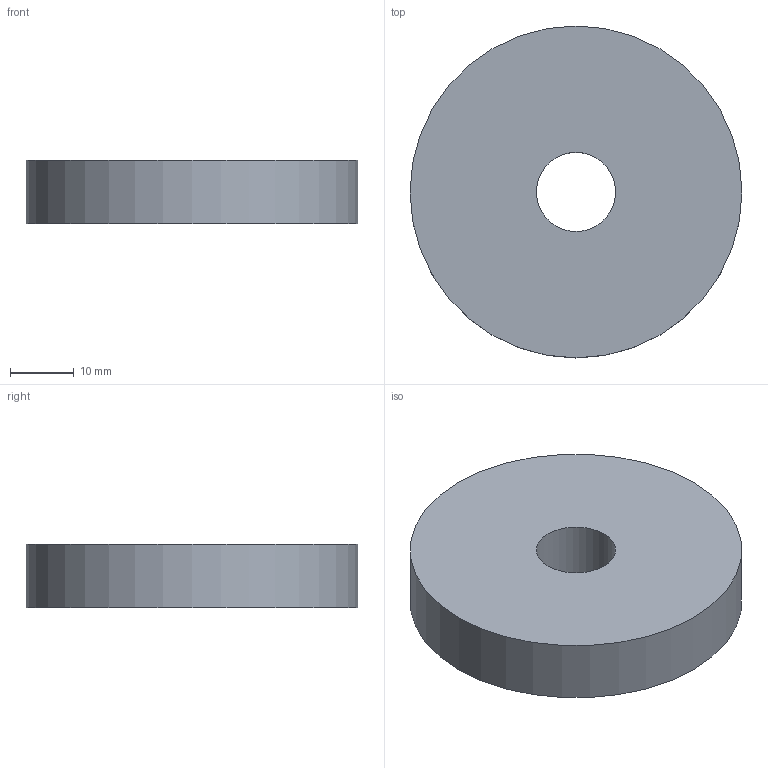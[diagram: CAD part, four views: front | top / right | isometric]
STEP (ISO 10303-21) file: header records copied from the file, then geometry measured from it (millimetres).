
FILE_DESCRIPTION(('Open CASCADE Model'),'2;1');
FILE_NAME('Open CASCADE Shape Model','2026-10-04T02:31:40',('Author'),( 'Open CASCADE'),'Open CASCADE STEP processor 8.0','Open CASCADE 8.0' ,'Unknown');
FILE_SCHEMA(('AUTOMOTIVE_DESIGN { 1 0 10303 214 1 1 1 1 }'));
Length unit declared in the file: millimetre
Products named in the file (1): Open CASCADE STEP translator 8.0 210
Bounding box: 52 x 52 x 10 mm (x, y, z)
Volume: 20029.5 mm3; surface area: 6029.1 mm2
Topology: 1 solids, 1 shells, 4 faces, 6 edges, 4 vertices
Faces by surface type: cylinder 2, plane 2
Full cylindrical faces by diameter (mm): 12.4 x1, 52 x1
Entity records: 186 total; most frequent: DIRECTION 32, CARTESIAN_POINT 27, ORIENTED_EDGE 12, PCURVE 12, DEFINITIONAL_REPRESENTATION 12, LINE 10, VECTOR 10, AXIS2_PLACEMENT_3D 9
